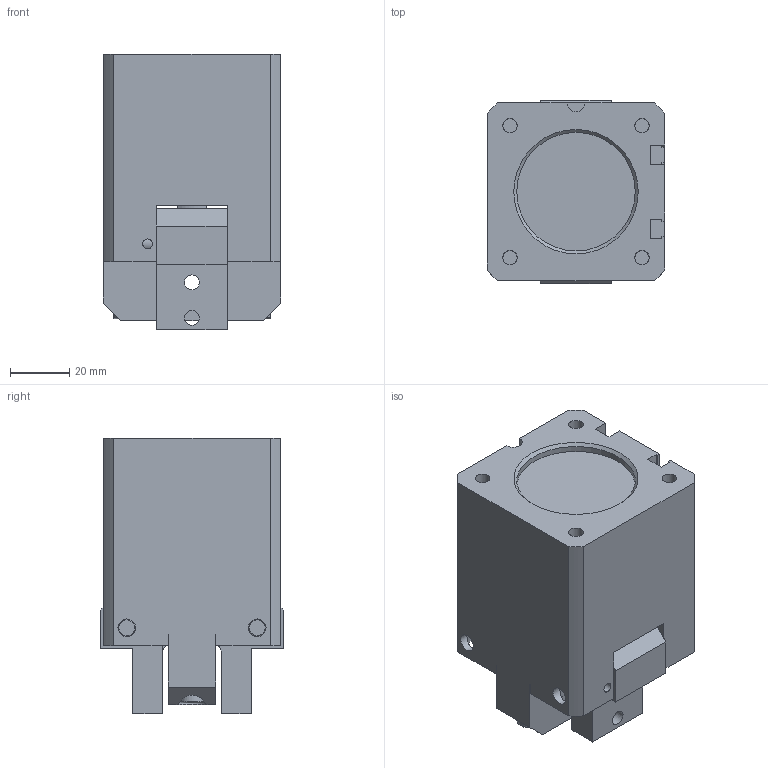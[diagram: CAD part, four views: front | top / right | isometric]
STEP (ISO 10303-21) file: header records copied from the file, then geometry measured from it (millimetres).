
FILE_DESCRIPTION(/* description */ (''),/* implementation_level */ '2;1');
FILE_NAME(/* name */ 'T:\CAD\Standard\Daten\3D-Datenbank\GZ\4 - 3D-CAD-Daten GZ 050-125\GZ080\step-Daten\G-GZ080-IO.stp',/* time_stamp */ '2016-11-10T19:38:46+01:00',/* author */ ('hcanti'),/* organization */ (''),/* preprocessor_version */ 'ST-DEVELOPER v15.2',/* originating_system */ 'Autodesk Inventor 2014',/* authorisation */ '');
FILE_SCHEMA (('CONFIG_CONTROL_DESIGN'));
Length unit declared in the file: millimetre
Products named in the file (1): Bauteil7
Bounding box: 60 x 62 x 93 mm (x, y, z)
Volume: 213723.5 mm3; surface area: 75972.1 mm2
Topology: 2 solids, 18 shells, 351 faces, 841 edges, 557 vertices
Faces by surface type: plane 189, cylinder 113, cone 33, torus 16
Full cylindrical faces by diameter (mm): 2.05 x1, 3.3 x2, 4.134 x2, 4.2 x3, 4.917 x4, 5 x6, 5.5 x2, 6 x14, 6.02 x2, 6.5 x4, 8.5 x3, 10 x9, 10.5 x1, 11 x4, 11.95 x2, 12 x2, 17.95 x1, 18 x2, 18.2 x1, 19.22 x1, 20 x1, 24.2 x1, 24.4 x1, 26 x2, 35 x1, 36 x2, 40 x2, 47 x1, 49.95 x1, 50 x5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
Entity records: 9640 total; most frequent: CARTESIAN_POINT 2003, DIRECTION 1502, ORIENTED_EDGE 1256, EDGE_CURVE 627, AXIS2_PLACEMENT_3D 594, EDGE_LOOP 576, VERTEX_POINT 479, STYLED_ITEM 353
